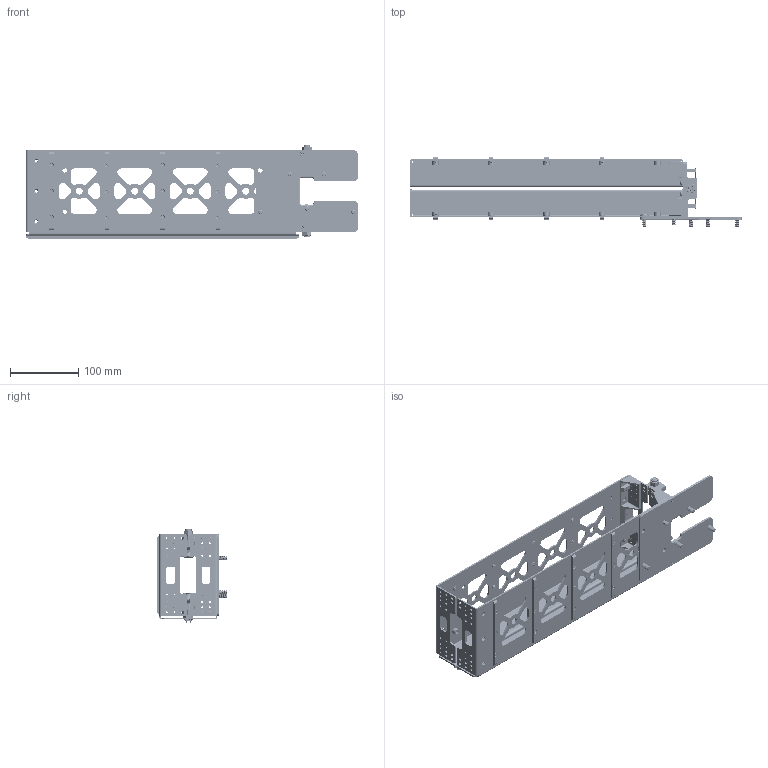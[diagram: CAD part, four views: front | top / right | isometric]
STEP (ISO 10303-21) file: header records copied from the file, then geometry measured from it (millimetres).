
FILE_DESCRIPTION (( 'STEP AP214' ), '1' );
FILE_NAME ('710-02068-A DCSA 9 Panel - Stowed.STEP', '2019-02-05T23:28:29', ( '' ), ( '' ), 'SwSTEP 2.0', 'SolidWorks 2014', '' );
FILE_SCHEMA (( 'AUTOMOTIVE_DESIGN' ));
Length unit declared in the file: inch
Products named in the file (2): 710-02068-A DCSA 9 Panel - Stowed
Bounding box: 486.3 x 102.14 x 136.27 mm (x, y, z)
Volume: 420370.5 mm3; surface area: 337705.7 mm2
Topology: 12 solids, 248 shells, 9661 faces, 21745 edges, 12391 vertices
Faces by surface type: cone 4286, plane 2994, cylinder 2104, torus 148, bspline 93, sphere 36
Entity records: 330006 total; most frequent: CARTESIAN_POINT 115696, DIRECTION 46473, ORIENTED_EDGE 43418, EDGE_CURVE 21709, AXIS2_PLACEMENT_3D 17659, VERTEX_POINT 12391, VECTOR 11155, LINE 11155
